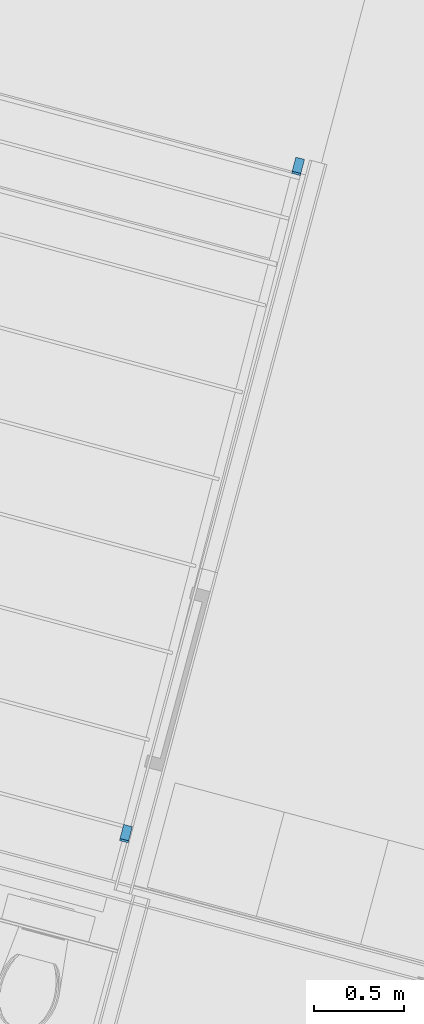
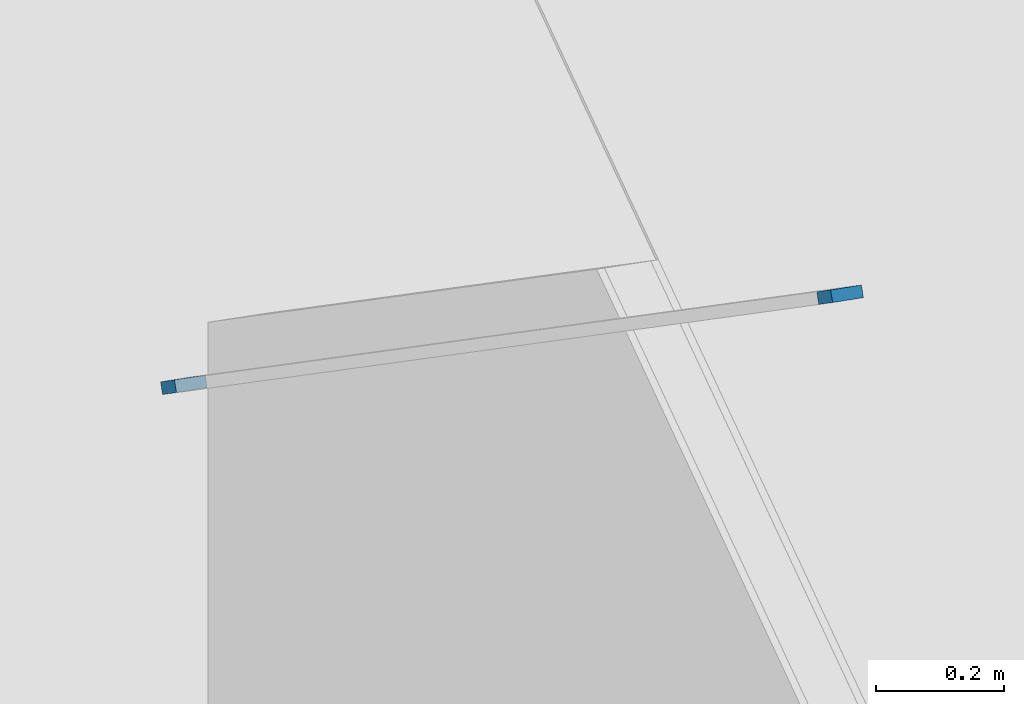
# One storey, part 9 of 167: 2 members, 1 element without a shape of its own.
"""IFC2X3 building model written with IfcOpenShell, lengths in millimetres."""

from ifc_helpers import new_model, entity, si_unit, converted_unit, derived_unit, money_unit, direction, frame, origin_with_axes, place, context, subcontext, project, spatial, faceted_brep, material, type_object, element, aggregate, save


model = new_model("IFC2X3")

# Units and contexts
model_context = context("Model", 3, precision=0.01, world=origin_with_axes(), true_north=direction((0.0, 1.0)))
plan_context = context("Plan", 3, precision=0.01, world=origin_with_axes(), true_north=direction((0.0, 1.0)))
body_context = subcontext(model_context, "Body", "Model", "MODEL_VIEW")
ifc_project = project(units=[si_unit("LENGTHUNIT", "METRE", prefix="MILLI"), si_unit("AREAUNIT", "SQUARE_METRE"), si_unit("VOLUMEUNIT", "CUBIC_METRE"), converted_unit("PLANEANGLEUNIT", "DEGREE", entity("IfcPlaneAngleMeasure", 0.0174532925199), si_unit("PLANEANGLEUNIT", "RADIAN"), dimensions=[0, 0, 0, 0, 0, 0, 0]), si_unit("SOLIDANGLEUNIT", "STERADIAN"), money_unit("EUR"), converted_unit("TIMEUNIT", "Year", entity("IfcTimeMeasure", 31556926.0), si_unit("TIMEUNIT", "SECOND"), dimensions=[0, 0, 1, 0, 0, 0, 0]), si_unit("MASSUNIT", "GRAM", prefix="KILO"), si_unit("THERMODYNAMICTEMPERATUREUNIT", "DEGREE_CELSIUS"), si_unit("LUMINOUSINTENSITYUNIT", "LUMEN"), si_unit("ENERGYUNIT", "JOULE", prefix="MEGA"), derived_unit("THERMALCONDUCTANCEUNIT", [(si_unit("POWERUNIT", "WATT"), 1), (si_unit("LENGTHUNIT", "METRE"), -1), (si_unit("THERMODYNAMICTEMPERATUREUNIT", "KELVIN"), -1)]), derived_unit("SPECIFICHEATCAPACITYUNIT", [(si_unit("ENERGYUNIT", "JOULE"), 1), (si_unit("MASSUNIT", "GRAM", prefix="KILO"), -1), (si_unit("THERMODYNAMICTEMPERATUREUNIT", "KELVIN"), -1)]), derived_unit("MASSDENSITYUNIT", [(si_unit("MASSUNIT", "GRAM", prefix="KILO"), 1), (si_unit("VOLUMEUNIT", "CUBIC_METRE"), -1)])], contexts=[model_context, plan_context])

# Site, building, storey
site_placement = place(None, origin_with_axes())
site = spatial("IfcSite", under=ifc_project, at=site_placement, Name="Site", CompositionType="ELEMENT")
building_placement = place(site_placement, origin_with_axes())
building = spatial("IfcBuilding", under=site, at=building_placement, Name="Naam gebouw", CompositionType="ELEMENT")
storey_placement = place(building_placement, origin_with_axes())
storey = spatial("IfcBuildingStorey", under=building, at=storey_placement, Name="Begane grond", CompositionType="ELEMENT", Elevation=0.0)

# Railing, members
railing_type = type_object("IfcRailingType", Name="Railing Type", PredefinedType="NOTDEFINED")
railing_placement = place(storey_placement, frame((20755.6650349, 19165.0128844, 181.999996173), z_axis=(0.0, 0.0, 1.0), x_axis=(1.0, 0.0, 0.0)))
railing = element("IfcRailing", 1, at=railing_placement, inside=storey, type_object=railing_type, Name="34_Reling_Reling-x", PredefinedType="NOTDEFINED")
ifc_material = material(Name="Metaal - RVS")
member_type = type_object("IfcMemberType", Name="IfcMember", PredefinedType="USERDEFINED")
member_1_placement = place(railing_placement, origin_with_axes())
member_1 = element("IfcMember", 2, at=member_1_placement, type_object=member_type, material=ifc_material, Name="_Reling - regel_Einde bovenregel-x", context=body_context, shape_type="Brep", body=[
    faceted_brep([(72.6220499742, -18.736004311, 900.0), (69.7040484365, -30.046380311, 883.76544852), (89.9820902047, 48.5527136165, 825.361823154), (92.9000917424, 59.8630896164, 841.596374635), (24.2073499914, -6.24533477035, 900.0), (21.2893484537, -17.5557107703, 883.76544852), (41.5673902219, 61.0433831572, 825.361823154), (44.4853917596, 72.3537591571, 841.596374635)], [[[0, 1, 2, 3]], [[0, 4, 5, 1]], [[1, 5, 6, 2]], [[3, 2, 6, 7]], [[4, 0, 3, 7]], [[5, 4, 7, 6]]]),
])
member_2_placement = place(railing_placement, origin_with_axes())
member_2 = element("IfcMember", 3, at=member_2_placement, type_object=member_type, material=ifc_material, Name="_Reling - regel_Einde bovenregel-x", context=body_context, shape_type="Brep", body=[
    faceted_brep([(-912.552250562, -3637.19040693, 3598.00000383), (-915.4702521, -3648.50078293, 3581.76545235), (-935.748293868, -3727.09987686, 3640.16907771), (-932.83029233, -3715.78950086, 3656.40362919), (-864.137550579, -3649.68107647, 3598.00000383), (-867.055552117, -3660.99145247, 3581.76545235), (-887.333593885, -3739.5905464, 3640.16907771), (-884.415592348, -3728.2801704, 3656.40362919)], [[[0, 1, 2, 3]], [[0, 4, 5, 1]], [[1, 5, 6, 2]], [[3, 2, 6, 7]], [[4, 0, 3, 7]], [[5, 4, 7, 6]]]),
])
aggregate(railing, [member_1, member_2])

save(model, "model.ifc")
